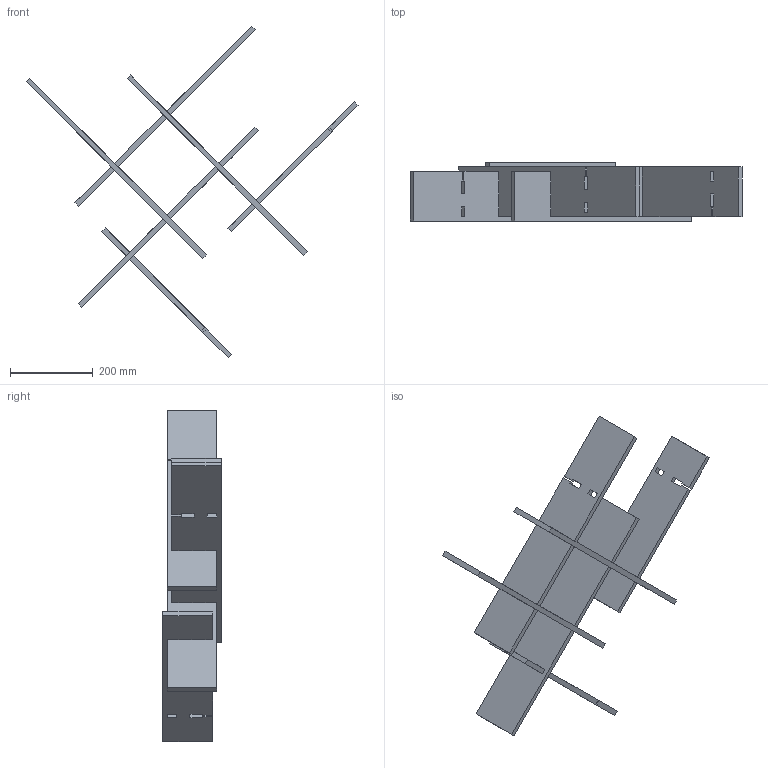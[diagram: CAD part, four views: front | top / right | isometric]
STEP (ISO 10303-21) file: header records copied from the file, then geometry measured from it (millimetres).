
FILE_DESCRIPTION(/* description */ (''),/* implementation_level */ '2;1');
FILE_NAME(/* name */ 'Y:\Design and Engineering\MaterialLogiq\CAD ASSETS\MASTER\GRAFFLE\WEB ASSETS\PET GRAFFLE_2x2_FLAT_SQUARE.stp',/* time_stamp */ '2023-11-02T14:06:00-05:00',/* author */ ('Grant Baker'),/* organization */ (''),/* preprocessor_version */ 'ST-DEVELOPER v19',/* originating_system */ 'Autodesk Inventor 2023',/* authorisation */ '');
FILE_SCHEMA (('AUTOMOTIVE_DESIGN { 1 0 10303 214 3 1 1 }'));
Length unit declared in the file: inch
Products named in the file (4): PET GRAFFLE_2x2_FLAT_SQUARE; PET GRAFFLE_A_2x2_FLAT_SQUARE; PET GRAFFLE_B_2x2_FLAT_SQUARE; PET GRAFFLE_LINK_2x2_FLAT_SQUARE
Assembly tree (6 placements, depth 2):
  PET GRAFFLE_2x2_FLAT_SQUARE
    PET GRAFFLE_LINK_2x2_FLAT_SQUARE  x2
    PET GRAFFLE_A_2x2_FLAT_SQUARE  x2
    PET GRAFFLE_B_2x2_FLAT_SQUARE  x2
Bounding box: 801.35 x 141.48 x 801.35 mm (x, y, z)
Volume: 4672826.4 mm3; surface area: 902240.7 mm2
Topology: 6 solids, 6 shells, 228 faces, 648 edges, 432 vertices
Faces by surface type: plane 228
Entity records: 3831 total; most frequent: CARTESIAN_POINT 664, ORIENTED_EDGE 648, DIRECTION 572, LINE 324, VECTOR 324, EDGE_CURVE 324, VERTEX_POINT 216, EDGE_LOOP 130
